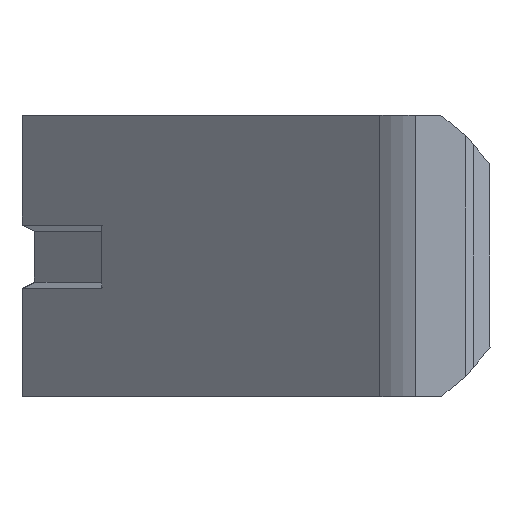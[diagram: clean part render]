
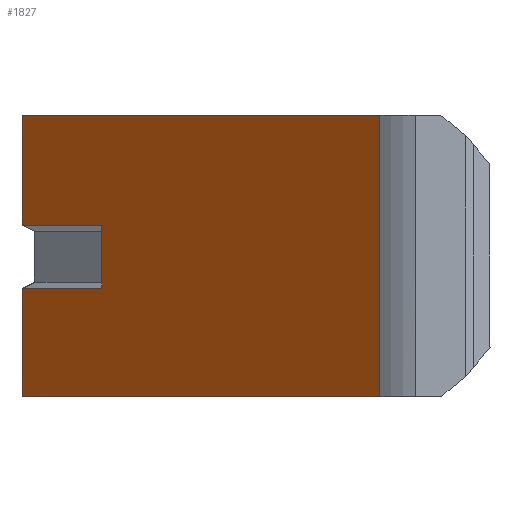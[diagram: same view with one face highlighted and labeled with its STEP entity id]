
A CAD part, left-side view. The second image highlights one B-rep face of the part: STEP entity #1827.
In plain terms, the highlighted planar face has unit normal (-0.715, 0.699, 0).
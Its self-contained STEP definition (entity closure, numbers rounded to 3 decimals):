
#198=CARTESIAN_POINT('',(-23.764,-792.258,-55.995));
#199=VERTEX_POINT('',#198);
#206=CARTESIAN_POINT('',(-23.764,-792.258,-42.127));
#207=VERTEX_POINT('',#206);
#208=CARTESIAN_POINT('',(-23.764,-792.258,-55.995));
#209=DIRECTION('',(0.,0.,1.));
#210=VECTOR('',#209,13.869);
#211=LINE('',#208,#210);
#212=EDGE_CURVE('',#199,#207,#211,.T.);
#230=CARTESIAN_POINT('',(-23.764,-792.258,-34.042));
#231=VERTEX_POINT('',#230);
#238=CARTESIAN_POINT('',(-23.764,-792.258,-19.995));
#239=VERTEX_POINT('',#238);
#240=CARTESIAN_POINT('',(-23.764,-792.258,-19.995));
#241=DIRECTION('',(0.,0.,-1.));
#242=VECTOR('',#241,14.047);
#243=LINE('',#240,#242);
#244=EDGE_CURVE('',#239,#231,#243,.T.);
#1565=CARTESIAN_POINT('',(-68.435,-837.986,-55.995));
#1566=VERTEX_POINT('',#1565);
#1575=CARTESIAN_POINT('',(-68.435,-837.986,-19.995));
#1576=VERTEX_POINT('',#1575);
#1584=CARTESIAN_POINT('',(-68.435,-837.986,-55.995));
#1585=CARTESIAN_POINT('',(-68.435,-837.986,-19.995));
#1586=B_SPLINE_CURVE_WITH_KNOTS('',1,(#1584,#1585),.UNSPECIFIED.,.F.,.F.,(2,2),(0.28,1.),.UNSPECIFIED.);
#1587=EDGE_CURVE('',#1566,#1576,#1586,.T.);
#1712=CARTESIAN_POINT('',(-68.435,-837.986,-19.995));
#1713=DIRECTION('',(0.699,0.715,0.));
#1714=VECTOR('',#1713,63.926);
#1715=LINE('',#1712,#1714);
#1716=EDGE_CURVE('',#1576,#239,#1715,.T.);
#1780=CARTESIAN_POINT('',(-46.1,-815.122,-69.995));
#1781=DIRECTION('',(0.715,-0.699,0.));
#1782=DIRECTION('',(-0.699,-0.715,0.));
#1783=AXIS2_PLACEMENT_3D('',#1780,#1781,#1782);
#1784=PLANE('',#1783);
#1785=ORIENTED_EDGE('',*,*,#244,.T.);
#1786=CARTESIAN_POINT('',(-33.69,-802.418,-34.077));
#1787=VERTEX_POINT('',#1786);
#1788=CARTESIAN_POINT('',(-23.764,-792.258,-34.042));
#1789=DIRECTION('',(-0.699,-0.715,-0.002));
#1790=VECTOR('',#1789,14.204);
#1791=LINE('',#1788,#1790);
#1792=EDGE_CURVE('',#231,#1787,#1791,.T.);
#1793=ORIENTED_EDGE('',*,*,#1792,.T.);
#1794=CARTESIAN_POINT('',(-33.69,-802.418,-42.091));
#1795=VERTEX_POINT('',#1794);
#1796=CARTESIAN_POINT('',(-33.69,-802.418,-42.091));
#1797=DIRECTION('',(0.,0.,1.));
#1798=VECTOR('',#1797,8.014);
#1799=LINE('',#1796,#1798);
#1800=EDGE_CURVE('',#1795,#1787,#1799,.T.);
#1801=ORIENTED_EDGE('',*,*,#1800,.F.);
#1802=CARTESIAN_POINT('',(-23.906,-792.403,-42.124));
#1803=VERTEX_POINT('',#1802);
#1804=CARTESIAN_POINT('',(-23.906,-792.403,-42.124));
#1805=DIRECTION('',(-0.699,-0.715,0.002));
#1806=VECTOR('',#1805,14.001);
#1807=LINE('',#1804,#1806);
#1808=EDGE_CURVE('',#1803,#1795,#1807,.T.);
#1809=ORIENTED_EDGE('',*,*,#1808,.F.);
#1810=CARTESIAN_POINT('',(-23.764,-792.258,-42.127));
#1811=DIRECTION('',(-0.699,-0.715,0.012));
#1812=VECTOR('',#1811,0.203);
#1813=LINE('',#1810,#1812);
#1814=EDGE_CURVE('',#207,#1803,#1813,.T.);
#1815=ORIENTED_EDGE('',*,*,#1814,.F.);
#1816=ORIENTED_EDGE('',*,*,#212,.F.);
#1817=CARTESIAN_POINT('',(-23.764,-792.258,-55.995));
#1818=DIRECTION('',(-0.699,-0.715,-0.));
#1819=VECTOR('',#1818,63.926);
#1820=LINE('',#1817,#1819);
#1821=EDGE_CURVE('',#199,#1566,#1820,.T.);
#1822=ORIENTED_EDGE('',*,*,#1821,.T.);
#1823=ORIENTED_EDGE('',*,*,#1587,.T.);
#1824=ORIENTED_EDGE('',*,*,#1716,.T.);
#1825=EDGE_LOOP('',(#1785,#1793,#1801,#1809,#1815,#1816,#1822,#1823,#1824));
#1826=FACE_BOUND('',#1825,.T.);
#1827=ADVANCED_FACE('',(#1826),#1784,.F.);
